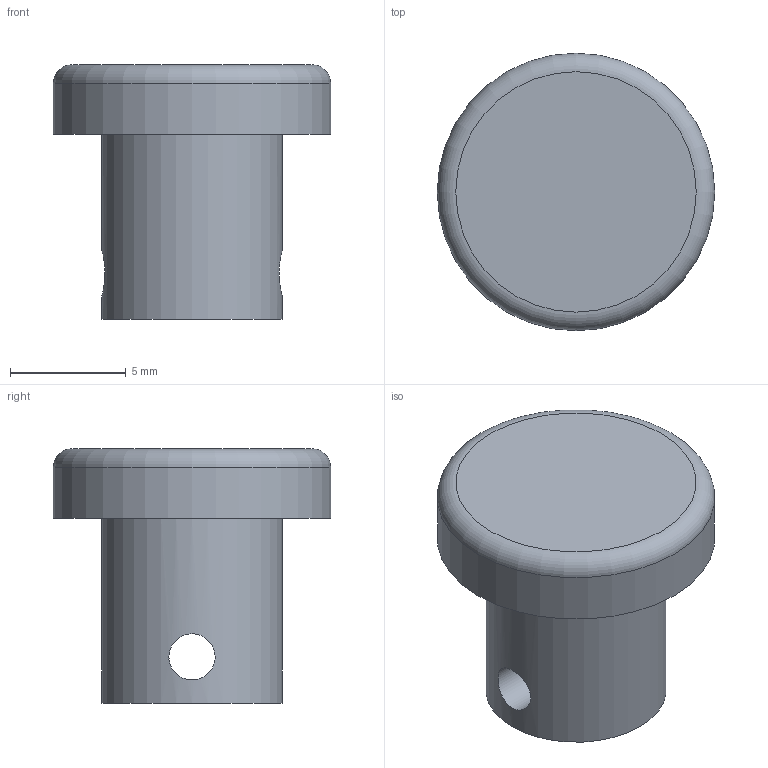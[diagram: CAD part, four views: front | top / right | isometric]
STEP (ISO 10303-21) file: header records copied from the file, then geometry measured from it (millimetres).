
FILE_DESCRIPTION(('Open CASCADE Model'),'2;1');
FILE_NAME('Open CASCADE Shape Model','2026-10-20T14:20:54',('Author'),( 'Open CASCADE'),'Open CASCADE STEP processor 7.8','Open CASCADE 7.8' ,'Unknown');
FILE_SCHEMA(('AUTOMOTIVE_DESIGN { 1 0 10303 214 1 1 1 1 }'));
Length unit declared in the file: millimetre
Products named in the file (1): Open CASCADE STEP translator 7.8 9
Bounding box: 12 x 12 x 11 mm (x, y, z)
Volume: 692.2 mm3; surface area: 564 mm2
Topology: 1 solids, 1 shells, 7 faces, 13 edges, 8 vertices
Faces by surface type: cylinder 3, plane 3, torus 1
Full cylindrical faces by diameter (mm): 2 x1, 7.8 x1, 12 x1
Entity records: 640 total; most frequent: CARTESIAN_POINT 360, DIRECTION 49, ORIENTED_EDGE 26, PCURVE 26, DEFINITIONAL_REPRESENTATION 26, LINE 18, VECTOR 18, AXIS2_PLACEMENT_3D 14
